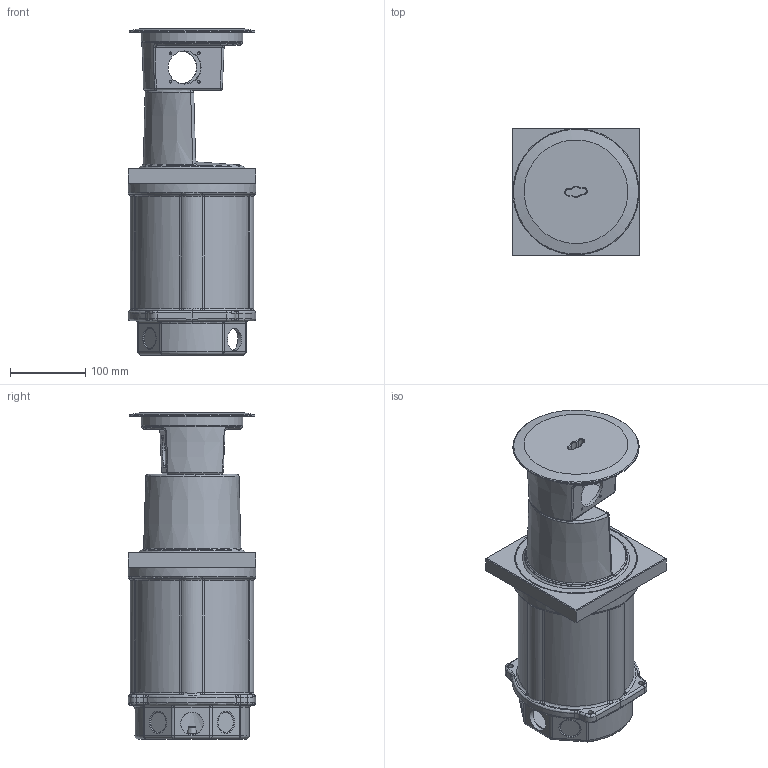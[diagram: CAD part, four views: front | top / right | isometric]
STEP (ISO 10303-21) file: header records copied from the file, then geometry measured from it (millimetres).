
FILE_DESCRIPTION(/* description */ (''),/* implementation_level */ '2;1');
FILE_NAME(/* name */ 'D:\LW_K\INVENTOR\Dummy Zeichnungen Bodendosen\Dummy Zeichnungen MASSO\MASSO_8010_Dummy.stp',/* time_stamp */ '2021-05-19T15:37:26+02:00',/* author */ ('mayrhofer'),/* organization */ (''),/* preprocessor_version */ 'ST-DEVELOPER v18.1',/* originating_system */ 'Autodesk Inventor 2021',/* authorisation */ '');
FILE_SCHEMA (('AUTOMOTIVE_DESIGN { 1 0 10303 214 3 1 1 }'));
Length unit declared in the file: millimetre
Products named in the file (7): MASSO_8010_Dummy; MASSO8000_GEHÄUSE_3DINV; Rahmen MASSO_3DINV; Anschlagring_MASSO_AUSSEN_3DINV; Einsatzträger_CEE_3DINV; Einsatzträger_Aufsatz_3DINV; Deckel_MASSO_3DINV
Assembly tree (6 placements, depth 2):
  MASSO_8010_Dummy
    MASSO8000_GEHÄUSE_3DINV
    Rahmen MASSO_3DINV
    Anschlagring_MASSO_AUSSEN_3DINV
    Einsatzträger_CEE_3DINV
    Einsatzträger_Aufsatz_3DINV
    Deckel_MASSO_3DINV
Bounding box: 170 x 170 x 434.5 mm (x, y, z)
Volume: 1817401.6 mm3; surface area: 533714.4 mm2
Topology: 6 solids, 6 shells, 690 faces, 1732 edges, 1071 vertices
Faces by surface type: plane 244, bspline 200, cylinder 150, torus 41, cone 37, sphere 18
Full cylindrical faces by diameter (mm): 3.4 x12, 4.5 x4, 6.8 x4, 30 x3, 44 x3, 136 x2, 136.4 x1, 137.7 x1, 161.4 x1, 162 x1, 168 x1, 170 x1
Entity records: 31538 total; most frequent: CARTESIAN_POINT 15572, ORIENTED_EDGE 3436, DIRECTION 2977, EDGE_CURVE 1718, AXIS2_PLACEMENT_3D 1111, VERTEX_POINT 1071, EDGE_LOOP 783, LINE 755
